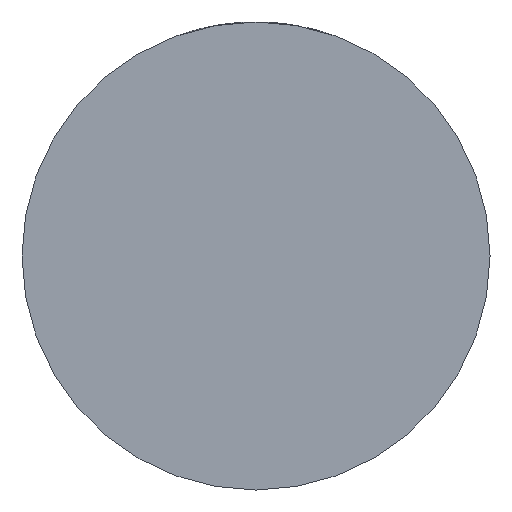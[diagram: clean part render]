
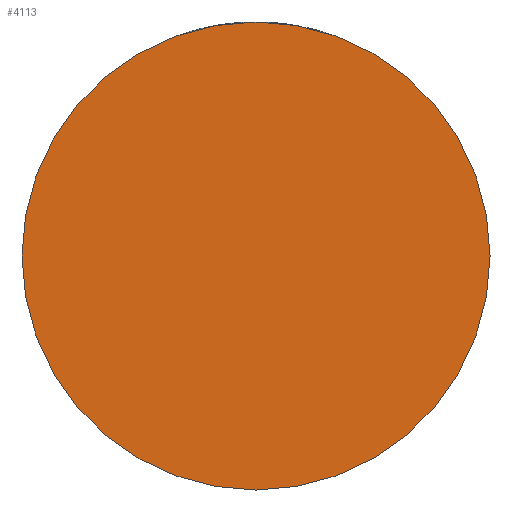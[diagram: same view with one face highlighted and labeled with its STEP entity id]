
A CAD part, front view. The second image highlights one B-rep face of the part: STEP entity #4113.
In plain terms, the highlighted planar face has unit normal (0, -1, 0).
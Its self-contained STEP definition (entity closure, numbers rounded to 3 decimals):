
#47 = DIRECTION ( 'NONE',  ( 1., 0., 0. ) ) ;
#198 = CIRCLE ( 'NONE', #1639, 32.5 ) ;
#295 = CARTESIAN_POINT ( 'NONE',  ( 32.5, -26., 0. ) ) ;
#648 = PLANE ( 'NONE',  #1781 ) ;
#760 = DIRECTION ( 'NONE',  ( 0., -1., 0. ) ) ;
#1014 = CARTESIAN_POINT ( 'NONE',  ( -32.5, -26., 0. ) ) ;
#1233 = DIRECTION ( 'NONE',  ( 0., -1., 0. ) ) ;
#1302 = AXIS2_PLACEMENT_3D ( 'NONE', #1538, #1233, #2887 ) ;
#1331 = VERTEX_POINT ( 'NONE', #295 ) ;
#1538 = CARTESIAN_POINT ( 'NONE',  ( 0., -26., 0. ) ) ;
#1639 = AXIS2_PLACEMENT_3D ( 'NONE', #2988, #760, #47 ) ;
#1702 = EDGE_CURVE ( 'NONE', #1331, #1904, #4136, .T. ) ;
#1781 = AXIS2_PLACEMENT_3D ( 'NONE', #2634, #2290, #2329 ) ;
#1904 = VERTEX_POINT ( 'NONE', #1014 ) ;
#2290 = DIRECTION ( 'NONE',  ( 0., -1., 0. ) ) ;
#2329 = DIRECTION ( 'NONE',  ( 1., 0., 0. ) ) ;
#2634 = CARTESIAN_POINT ( 'NONE',  ( 0., -26., 0. ) ) ;
#2887 = DIRECTION ( 'NONE',  ( 1., 0., 0. ) ) ;
#2988 = CARTESIAN_POINT ( 'NONE',  ( 0., -26., 0. ) ) ;
#3138 = EDGE_LOOP ( 'NONE', ( #3189, #3383 ) ) ;
#3189 = ORIENTED_EDGE ( 'NONE', *, *, #3557, .T. ) ;
#3383 = ORIENTED_EDGE ( 'NONE', *, *, #1702, .T. ) ;
#3557 = EDGE_CURVE ( 'NONE', #1904, #1331, #198, .T. ) ;
#4008 = FACE_OUTER_BOUND ( 'NONE', #3138, .T. ) ;
#4113 = ADVANCED_FACE ( 'NONE', ( #4008 ), #648, .T. ) ;
#4136 = CIRCLE ( 'NONE', #1302, 32.5 ) ;
